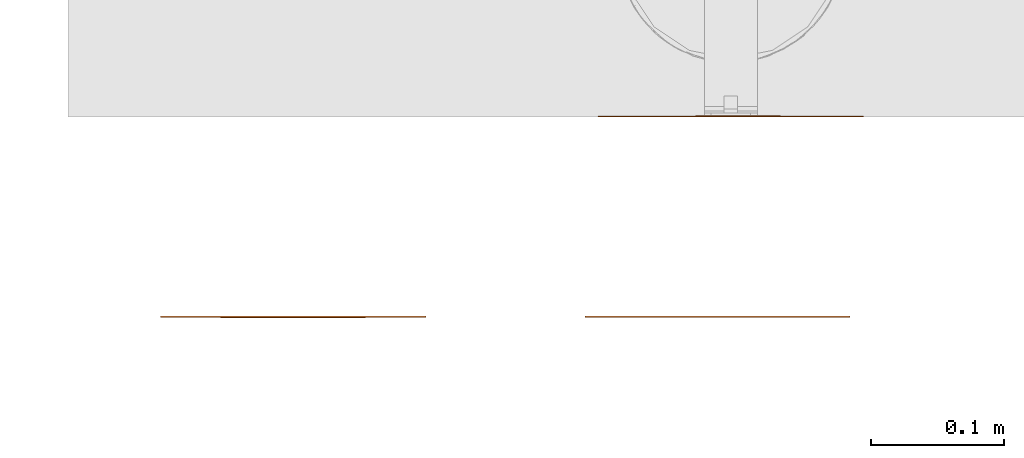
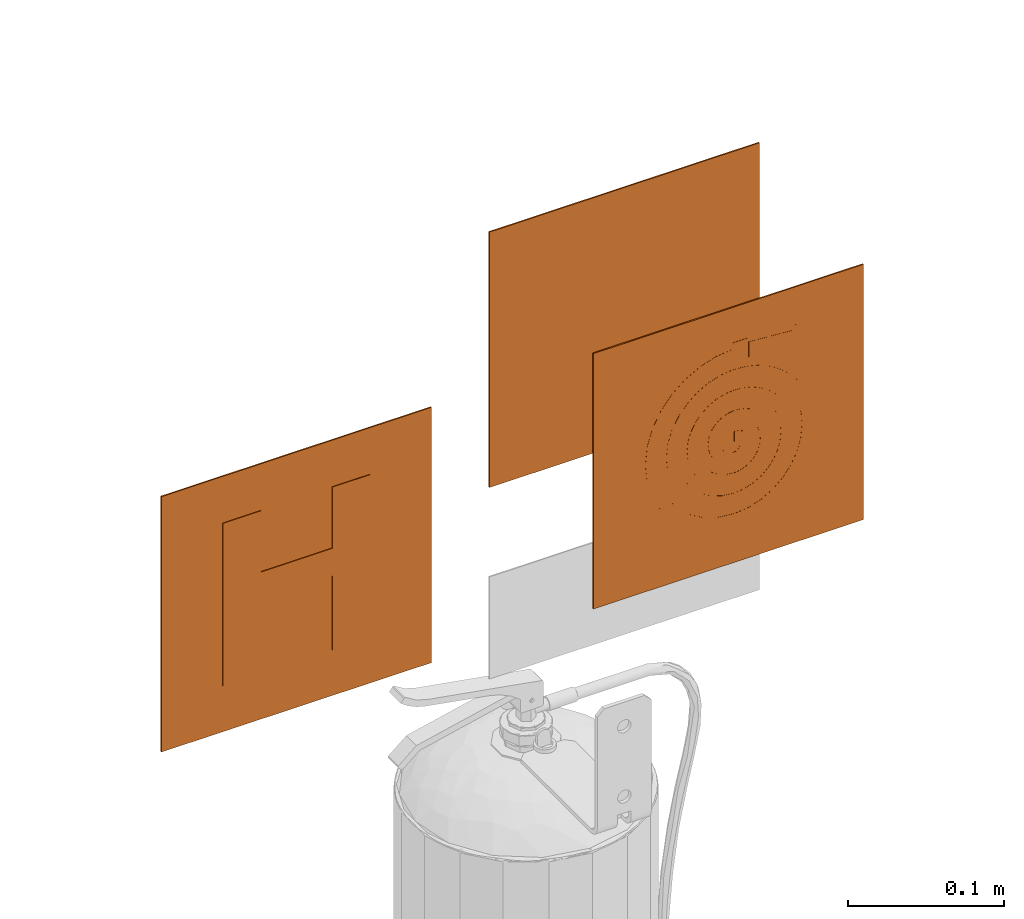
# One storey, part 41 of 119: 3 proxies.
"""IFC2X3 building model written with IfcOpenShell, lengths in metres."""

from ifc_helpers import new_model, entity, si_unit, converted_unit, derived_unit, direction, frame, frame_2d, origin, origin_2d_with_axis, place, context, subcontext, project, spatial, polyline, circle_curve, parameter, trimmed, segment, composite_curve, rectangle, outline, extrude, source, transform, mapped, material, material_list, type_object, type_shapes, element, save


model = new_model("IFC2X3")

# Units and contexts
model_context = context("Model", 3, precision=1e-05, world=origin(), true_north=direction((6.12303176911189e-17, 1.0)))
body_context = subcontext(model_context, "Body", "Model", "MODEL_VIEW")
ifc_project = project(units=[si_unit("LENGTHUNIT", "METRE"), si_unit("AREAUNIT", "SQUARE_METRE"), si_unit("VOLUMEUNIT", "CUBIC_METRE"), converted_unit("PLANEANGLEUNIT", "DEGREE", entity("IfcRatioMeasure", 0.0174532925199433), si_unit("PLANEANGLEUNIT", "RADIAN"), dimensions=[0, 0, 0, 0, 0, 0, 0]), si_unit("MASSUNIT", "GRAM", prefix="KILO"), derived_unit("MASSDENSITYUNIT", [(si_unit("MASSUNIT", "GRAM", prefix="KILO"), 1), (si_unit("LENGTHUNIT", "METRE"), -3)]), derived_unit("MOMENTOFINERTIAUNIT", [(si_unit("LENGTHUNIT", "METRE"), 4)]), si_unit("TIMEUNIT", "SECOND"), si_unit("FREQUENCYUNIT", "HERTZ"), si_unit("THERMODYNAMICTEMPERATUREUNIT", "DEGREE_CELSIUS"), derived_unit("THERMALTRANSMITTANCEUNIT", [(si_unit("MASSUNIT", "GRAM", prefix="KILO"), 1), (si_unit("THERMODYNAMICTEMPERATUREUNIT", "KELVIN"), -1), (si_unit("TIMEUNIT", "SECOND"), -3)]), derived_unit("VOLUMETRICFLOWRATEUNIT", [(si_unit("LENGTHUNIT", "METRE"), 3), (si_unit("TIMEUNIT", "SECOND"), -1)]), si_unit("ELECTRICCURRENTUNIT", "AMPERE"), si_unit("ELECTRICVOLTAGEUNIT", "VOLT"), si_unit("POWERUNIT", "WATT"), si_unit("FORCEUNIT", "NEWTON", prefix="KILO"), si_unit("ILLUMINANCEUNIT", "LUX"), si_unit("LUMINOUSFLUXUNIT", "LUMEN"), si_unit("LUMINOUSINTENSITYUNIT", "CANDELA"), derived_unit("USERDEFINED", [(si_unit("MASSUNIT", "GRAM", prefix="KILO"), -1), (si_unit("LENGTHUNIT", "METRE"), -2), (si_unit("TIMEUNIT", "SECOND"), 3), (si_unit("LUMINOUSFLUXUNIT", "LUMEN"), 1)]), derived_unit("LINEARVELOCITYUNIT", [(si_unit("LENGTHUNIT", "METRE"), 1), (si_unit("TIMEUNIT", "SECOND"), -1)]), si_unit("PRESSUREUNIT", "PASCAL"), derived_unit("USERDEFINED", [(si_unit("LENGTHUNIT", "METRE"), -2), (si_unit("MASSUNIT", "GRAM", prefix="KILO"), 1), (si_unit("TIMEUNIT", "SECOND"), -2)]), derived_unit("LINEARFORCEUNIT", [(si_unit("MASSUNIT", "GRAM", prefix="KILO"), 1), (si_unit("LENGTHUNIT", "METRE"), 1), (si_unit("TIMEUNIT", "SECOND"), -2), (si_unit("LENGTHUNIT", "METRE"), -1)]), derived_unit("PLANARFORCEUNIT", [(si_unit("MASSUNIT", "GRAM", prefix="KILO"), 1), (si_unit("LENGTHUNIT", "METRE"), 1), (si_unit("TIMEUNIT", "SECOND"), -2), (si_unit("LENGTHUNIT", "METRE"), -2)])], contexts=[model_context])

# Site, building, storey
site_placement = place(None, origin())
site = spatial("IfcSite", under=ifc_project, at=site_placement, Name="Default", CompositionType="ELEMENT")
building_placement = place(site_placement, origin())
building = spatial("IfcBuilding", under=site, at=building_placement, CompositionType="ELEMENT")
storey_placement = place(building_placement, origin())
storey = spatial("IfcBuildingStorey", under=building, at=storey_placement, Name="PAV. 01 - TÉRREO", CompositionType="ELEMENT", Elevation=0.0)

# Proxies
ifc_material_1 = material(Name="Plastico branco")
ifc_material_2 = material(Name="Plastico vermelho")
ifc_material_list_1 = material_list([ifc_material_1, ifc_material_2])
building_element_proxy_type_1 = type_object("IfcBuildingElementProxyType", Name="Sinalização de equipamentos - E05 - Extintor de incêndio:Distância 08m", PredefinedType="NOTDEFINED", material=ifc_material_1)
shared_shape_1 = source(origin(), body_context, "Body", "SweptSolid", [
    extrude(outline(composite_curve([segment(polyline([(-0.039533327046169, -0.0988107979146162), (0.0136590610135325, -0.0988107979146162)]), True, "CONTINUOUS"), segment(polyline([(0.0136590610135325, -0.0988107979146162), (0.0136590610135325, -0.0150548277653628)]), True, "CONTINUOUS"), segment(polyline([(0.0136590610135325, -0.0150548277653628), (0.0132403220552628, -0.0112272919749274)]), True, "CONTINUOUS"), segment(polyline([(0.0132403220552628, -0.0112272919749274), (0.0119841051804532, -0.00798860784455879)]), True, "CONTINUOUS"), segment(polyline([(0.0119841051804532, -0.00798860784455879), (0.00989041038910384, -0.00533877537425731)]), True, "CONTINUOUS"), segment(polyline([(0.00989041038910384, -0.00533877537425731), (0.00695923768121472, -0.00327779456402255)]), True, "CONTINUOUS"), segment(polyline([(0.00695923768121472, -0.00327779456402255), (0.00319058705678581, -0.00180566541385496)]), True, "CONTINUOUS"), segment(polyline([(0.00319058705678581, -0.00180566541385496), (-0.00141554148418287, -0.000922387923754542)]), True, "CONTINUOUS"), segment(polyline([(-0.00141554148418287, -0.000922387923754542), (-0.00685914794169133, -0.000627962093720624)]), True, "CONTINUOUS"), segment(polyline([(-0.00685914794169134, -0.000627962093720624), (-0.00685914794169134, 0.00837547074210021)]), True, "CONTINUOUS"), segment(polyline([(-0.00685914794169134, 0.00837547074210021), (0.000568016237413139, 0.00837547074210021)]), True, "CONTINUOUS"), segment(polyline([(0.000568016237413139, 0.00837547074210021), (0.021500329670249, -0.0075875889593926)]), True, "CONTINUOUS"), segment(polyline([(0.021500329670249, -0.0075875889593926), (0.021500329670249, -0.0104328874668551)]), True, "CONTINUOUS"), segment(polyline([(0.021500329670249, -0.0104328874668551), (0.0245059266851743, -0.0104328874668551)]), True, "CONTINUOUS"), segment(polyline([(0.0245059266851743, -0.0104328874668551), (0.0245059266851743, -0.00811335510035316)]), True, "CONTINUOUS"), segment(polyline([(0.0245059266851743, -0.00811335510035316), (0.0243642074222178, -0.00545038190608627)]), True, "CONTINUOUS"), segment(polyline([(0.0243642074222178, -0.00545038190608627), (0.0239570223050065, -0.0032112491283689)]), True, "CONTINUOUS"), segment(polyline([(0.0239570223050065, -0.0032112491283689), (0.0233113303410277, -0.00132119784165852)]), True, "CONTINUOUS"), segment(polyline([(0.0233113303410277, -0.00132119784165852), (0.0224540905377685, 0.00029453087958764)]), True, "CONTINUOUS"), segment(polyline([(0.0224540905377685, 0.00029453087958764), (0.0214122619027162, 0.00171069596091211)]), True, "CONTINUOUS"), segment(polyline([(0.0214122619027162, 0.00171069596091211), (0.0202128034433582, 0.00300205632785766)]), True, "CONTINUOUS"), segment(polyline([(0.0202128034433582, 0.00300205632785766), (0.0188826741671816, 0.00424337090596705)]), True, "CONTINUOUS"), segment(polyline([(0.0188826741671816, 0.00424337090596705), (0.0144021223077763, 0.00811180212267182)]), True, "CONTINUOUS"), segment(polyline([(0.0144021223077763, 0.00811180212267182), (0.0113518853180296, 0.0106145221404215)]), True, "CONTINUOUS"), segment(polyline([(0.0113518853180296, 0.0106145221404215), (0.0085825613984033, 0.0127576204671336)]), True, "CONTINUOUS"), segment(polyline([(0.0085825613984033, 0.0127576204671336), (0.00738733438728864, 0.0136170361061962)]), True, "CONTINUOUS"), segment(polyline([(0.00738733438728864, 0.0136170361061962), (0.00631521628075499, 0.0143235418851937)]), True, "CONTINUOUS"), segment(polyline([(0.00631521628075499, 0.0143235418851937), (0.00532850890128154, 0.0148903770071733)]), True, "CONTINUOUS"), segment(polyline([(0.00532850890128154, 0.0148903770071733), (0.00438926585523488, 0.0153309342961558)]), True, "CONTINUOUS"), segment(polyline([(0.00438926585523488, 0.0153309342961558), (0.00345954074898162, 0.0156586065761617)]), True, "CONTINUOUS"), segment(polyline([(0.00345954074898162, 0.0156586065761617), (0.00250138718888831, 0.0158867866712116)]), True, "CONTINUOUS"), segment(polyline([(0.00250138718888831, 0.0158867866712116), (0.00144087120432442, 0.0160289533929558)]), True, "CONTINUOUS"), segment(polyline([(0.00144087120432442, 0.0160289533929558), (-0.000108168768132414, 0.0160993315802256)]), True, "CONTINUOUS"), segment(polyline([(-0.000108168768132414, 0.0160993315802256), (-0.00685914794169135, 0.0160831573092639)]), True, "CONTINUOUS"), segment(polyline([(-0.00685914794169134, 0.0160831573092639), (-0.00685914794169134, 0.0213863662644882)]), True, "CONTINUOUS"), segment(polyline([(-0.00685914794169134, 0.0213863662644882), (-0.0177728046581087, 0.0213863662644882)]), True, "CONTINUOUS"), segment(polyline([(-0.0177728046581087, 0.0213863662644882), (-0.0177728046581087, 0.0160831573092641)]), True, "CONTINUOUS"), segment(polyline([(-0.0177728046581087, 0.0160831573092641), (-0.0288467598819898, 0.0160831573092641)]), True, "CONTINUOUS"), segment(trimmed(circle_curve(frame_2d((-0.0288467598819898, 0.0122293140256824), x_axis=(-1.0, 0.0)), 0.00385384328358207), [parameter(270.0)], [parameter(90.0000000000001)], True, "PARAMETER"), True, "CONTINUOUS"), segment(polyline([(-0.0288467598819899, 0.00837547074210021), (-0.0190151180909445, 0.00837547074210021)]), True, "CONTINUOUS"), segment(polyline([(-0.0190151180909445, 0.00837547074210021), (-0.0190151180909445, -0.000627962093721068)]), True, "CONTINUOUS"), segment(polyline([(-0.0190151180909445, -0.000627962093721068), (-0.024458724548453, -0.000922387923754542)]), True, "CONTINUOUS"), segment(polyline([(-0.024458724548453, -0.000922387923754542), (-0.0290648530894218, -0.00180566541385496)]), True, "CONTINUOUS"), segment(polyline([(-0.0290648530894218, -0.00180566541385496), (-0.0328335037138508, -0.00327779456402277)]), True, "CONTINUOUS"), segment(polyline([(-0.0328335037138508, -0.00327779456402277), (-0.03576467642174, -0.00533877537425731)]), True, "CONTINUOUS"), segment(polyline([(-0.03576467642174, -0.00533877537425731), (-0.0378583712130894, -0.00798860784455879)]), True, "CONTINUOUS"), segment(polyline([(-0.0378583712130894, -0.00798860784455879), (-0.0391145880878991, -0.0112272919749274)]), True, "CONTINUOUS"), segment(polyline([(-0.0391145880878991, -0.0112272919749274), (-0.039533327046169, -0.0150548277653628)]), True, "CONTINUOUS"), segment(polyline([(-0.039533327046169, -0.0150548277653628), (-0.039533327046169, -0.0988107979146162)]), True, "CONTINUOUS")], self_intersect=False)), frame((-0.0129371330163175, -0.0011, 1.94006139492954), z_axis=(0.0, 1.0, 0.0), x_axis=(-1.0, 0.0, 0.0)), (0.0, 0.0, 1.0), 0.0011),
    extrude(rectangle(XDim=0.001, YDim=0.179, at=origin_2d_with_axis()), frame((0.0, -0.0005, 1.8105), z_axis=(0.0, 0.0, 1.0), x_axis=(0.0, 1.0, 0.0)), (0.0, 0.0, 1.0), 0.179),
    extrude(outline(polyline([(-0.100000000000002, -0.1), (0.100000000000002, -0.1), (0.100000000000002, 0.1), (-0.100000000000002, 0.1), (-0.100000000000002, -0.1)]), holes=[polyline([(-0.0895000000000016, -0.0895000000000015), (-0.0895000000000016, 0.0894999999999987), (0.0894999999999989, 0.0894999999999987), (0.0894999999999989, -0.0895000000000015), (-0.0895000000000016, -0.0895000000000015)])]), frame((0.0, -0.001, 1.9), z_axis=(0.0, 1.0, 0.0), x_axis=(0.0, 0.0, -1.0)), (0.0, 0.0, 1.0), 0.001),
])
type_shapes(building_element_proxy_type_1, [shared_shape_1])
proxy_1_placement = place(storey_placement, frame((26.0441407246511, -5.41661806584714, 0.0), z_axis=(0.0, 0.0, 1.0), x_axis=(-1.0, 0.0, 0.0)))
element("IfcBuildingElementProxy", 1, at=proxy_1_placement, inside=storey, type_object=building_element_proxy_type_1, material=ifc_material_list_1, Name="Sinalização de equipamentos - E05 - Extintor de incêndio:Distância 08m", ObjectType="Sinalização de equipamentos - E05 - Extintor de incêndio:Distância 08m", context=body_context, shape_type="MappedRepresentation", body=[
    mapped(shared_shape_1, transform((0.0, 0.0, 0.0), scale=1.0)),
])
ifc_material_list_2 = material_list([ifc_material_1, ifc_material_2])
building_element_proxy_type_2 = type_object("IfcBuildingElementProxyType", Name="Sinalização de equipamentos - E08 - Hidrante de incêndio:Distância 08m", PredefinedType="NOTDEFINED", material=ifc_material_1)
shared_shape_2 = source(origin(), body_context, "Body", "SweptSolid", [
    extrude(outline(polyline([(-0.0621646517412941, -0.0264425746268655), (-0.0621646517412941, -0.0546283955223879), (0.0655131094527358, -0.0546283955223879), (0.0655131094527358, -0.0264425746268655), (0.00753848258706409, -0.0264425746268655), (0.00753848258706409, 0.0264425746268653), (0.0655131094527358, 0.0264425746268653), (0.0655131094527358, 0.0546283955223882), (-0.0621646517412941, 0.0546283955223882), (-0.0621646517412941, 0.0264425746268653), (-0.0142353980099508, 0.0264425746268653), (-0.0142353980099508, -0.0264425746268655), (-0.0621646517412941, -0.0264425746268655)])), frame((0.0, -0.0015, 1.90139370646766), z_axis=(0.0, -1.0, 0.0), x_axis=(0.0, 0.0, -1.0)), (0.0, 0.0, -1.0), 0.0015),
    extrude(rectangle(XDim=0.001, YDim=0.179, at=origin_2d_with_axis()), frame((0.0, -0.0005, 1.8105), z_axis=(0.0, 0.0, 1.0), x_axis=(0.0, 1.0, 0.0)), (0.0, 0.0, 1.0), 0.179),
    extrude(outline(polyline([(-0.100000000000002, -0.1), (0.100000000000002, -0.1), (0.100000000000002, 0.1), (-0.100000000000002, 0.1), (-0.100000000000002, -0.1)]), holes=[polyline([(-0.0895000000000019, -0.0895000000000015), (-0.0895000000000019, 0.0894999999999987), (0.0894999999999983, 0.0894999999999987), (0.0894999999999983, -0.0895000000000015), (-0.0895000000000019, -0.0895000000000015)])]), frame((0.0, -0.001, 1.9), z_axis=(0.0, 1.0, 0.0), x_axis=(0.0, 0.0, -1.0)), (0.0, 0.0, 1.0), 0.001),
])
type_shapes(building_element_proxy_type_2, [shared_shape_2])
proxy_2_placement = place(storey_placement, frame((25.7140605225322, -5.56661806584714, 0.0)))
element("IfcBuildingElementProxy", 2, at=proxy_2_placement, inside=storey, type_object=building_element_proxy_type_2, material=ifc_material_list_2, Name="Sinalização de equipamentos - E08 - Hidrante de incêndio:Distância 08m", ObjectType="Sinalização de equipamentos - E08 - Hidrante de incêndio:Distância 08m", context=body_context, shape_type="MappedRepresentation", body=[
    mapped(shared_shape_2, transform((0.0, 0.0, 0.0), scale=1.0)),
])
ifc_material_list_3 = material_list([ifc_material_1, ifc_material_2])
building_element_proxy_type_3 = type_object("IfcBuildingElementProxyType", Name="Sinalização de equipamentos - E07 - Abrigo de mangueira e hidrante:Distância 08m", PredefinedType="NOTDEFINED", material=ifc_material_1)
shared_shape_3 = source(origin(), body_context, "Body", "SweptSolid", [
    extrude(outline(polyline([(-0.00690786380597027, -0.0122995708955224), (0.00711825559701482, -0.0122995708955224), (0.00711825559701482, -0.00743718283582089), (0.00262989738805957, -0.00743718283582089), (0.00596944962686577, 0.0271739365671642), (-0.00581249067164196, 0.0271739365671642), (-0.00320763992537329, -0.00743718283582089), (-0.00690786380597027, -0.00743718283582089), (-0.00690786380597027, -0.0122995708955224)])), frame((0.0421885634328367, -0.0011, 1.96326280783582), z_axis=(0.0, 1.0, 0.0), x_axis=(0.0, 0.0, -1.0)), (0.0, 0.0, 1.0), 0.0011),
    extrude(outline(polyline([(-0.0100749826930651, 0.0564373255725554), (0.000130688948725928, 0.0564373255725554), (0.000130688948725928, 0.0615935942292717), (0.0111390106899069, 0.0603672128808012), (0.0215236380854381, 0.0569157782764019), (0.0310659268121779, 0.0514698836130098), (0.039547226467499, 0.044260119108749), (0.0467232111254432, 0.0355044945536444), (0.0522652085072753, 0.0253796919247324), (0.0558272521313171, 0.0140539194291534), (0.0570633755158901, 0.00169538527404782), (0.0559544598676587, -0.0103529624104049), (0.0527167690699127, -0.021677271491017), (0.0475402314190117, -0.0320063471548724), (0.0406147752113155, -0.0410689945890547), (0.0321303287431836, -0.0485940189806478), (0.0222768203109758, -0.054310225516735), (0.0112441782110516, -0.0579464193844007), (-0.000777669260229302, -0.0592314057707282), (-0.0112144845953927, -0.0581339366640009), (-0.0207847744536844, -0.0549992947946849), (-0.0293267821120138, -0.0500696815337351), (-0.0366787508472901, -0.0435872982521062), (-0.0426789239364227, -0.0357943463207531), (-0.0471655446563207, -0.0269330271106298), (-0.0499768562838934, -0.0172455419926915), (-0.0509511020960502, -0.00697409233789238), (-0.0503267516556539, 0.00214397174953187), (-0.0485509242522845, 0.0101046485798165), (-0.0457766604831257, 0.0170464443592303), (-0.042157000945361, 0.0231078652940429), (-0.0378449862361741, 0.0284274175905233), (-0.0329915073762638, 0.0331411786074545), (-0.0276526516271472, 0.0372781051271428), (-0.0217544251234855, 0.0407201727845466), (-0.0152134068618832, 0.0433387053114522), (-0.00794617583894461, 0.0450050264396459), (0.000130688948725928, 0.0455904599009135), (0.0081536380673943, 0.04465447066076), (0.0157133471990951, 0.0420982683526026), (0.0226512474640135, 0.0380908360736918), (0.0288087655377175, 0.0328011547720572), (0.034008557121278, 0.0263891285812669), (0.0380116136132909, 0.0189848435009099), (0.0405662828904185, 0.0107122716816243), (0.041420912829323, 0.00169538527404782), (0.0406481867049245, -0.00714065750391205), (0.0383124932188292, -0.015453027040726), (0.0345521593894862, -0.0230422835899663), (0.0295055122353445, -0.0297089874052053), (0.023310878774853, -0.0352536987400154), (0.0161065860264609, -0.0394769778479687), (0.0080309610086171, -0.0421793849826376), (-0.000777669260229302, -0.043161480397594), (-0.00799025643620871, -0.0423890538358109), (-0.014601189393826, -0.0402096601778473), (-0.0204989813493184, -0.0367909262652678), (-0.0255721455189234, -0.0323004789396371), (-0.0297091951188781, -0.0269059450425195), (-0.03279864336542, -0.0207749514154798), (-0.0347290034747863, -0.0140751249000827), (-0.0353887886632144, -0.00697409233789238), (-0.0349404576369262, -0.000650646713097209), (-0.0336953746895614, 0.00486808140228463), (-0.0317594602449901, 0.00967841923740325), (-0.0292386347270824, 0.0138766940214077), (-0.0262388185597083, 0.0175592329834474), (-0.0228644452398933, 0.0208206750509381), (-0.0191543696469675, 0.02368119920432), (-0.015057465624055, 0.0260588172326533), (-0.0105160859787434, 0.02786413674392), (-0.00547258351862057, 0.0290077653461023), (0.000130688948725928, 0.0294003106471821), (0.00520279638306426, 0.0288165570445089), (0.00998368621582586, 0.027208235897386), (0.0143729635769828, 0.0246820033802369), (0.018270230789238, 0.0213445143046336), (0.0215632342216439, 0.0172966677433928), (0.0241007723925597, 0.012620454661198), (0.02572365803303, 0.00739398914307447), (0.0262727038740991, 0.00169538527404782), (0.0257957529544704, -0.0039920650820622), (0.0243118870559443, -0.00934613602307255), (0.0219096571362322, -0.0142381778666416), (0.0186776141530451, -0.0185395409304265), (0.0147043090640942, -0.0221215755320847), (0.0100782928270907, -0.0248556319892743), (0.00488811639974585, -0.0266130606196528), (-0.000777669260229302, -0.0272652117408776), (-0.00480591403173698, -0.0268185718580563), (-0.00849506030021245, -0.0255870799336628), (-0.011783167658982, -0.0236646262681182), (-0.014608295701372, -0.0211451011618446), (-0.0169085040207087, -0.0181223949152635), (-0.0186218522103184, -0.0146903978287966), (-0.0196863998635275, -0.0109430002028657), (-0.0200402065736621, -0.00697409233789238), (-0.0197070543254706, -0.00307612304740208), (-0.0188559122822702, 0.000297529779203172), (-0.0175578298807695, 0.00320533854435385), (-0.0158838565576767, 0.00570577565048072), (-0.0139050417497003, 0.00785731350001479), (-0.0116800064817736, 0.00970541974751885), (-0.00919827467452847, 0.0112232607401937), (-0.00642549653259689, 0.0123590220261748), (-0.00332729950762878, 0.013060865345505), (0.000130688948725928, 0.013276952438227), (0.00313917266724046, 0.0124353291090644), (0.00564156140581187, 0.0111582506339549), (0.00763785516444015, 0.00944571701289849), (0.0091280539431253, 0.00729772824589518), (0.0101121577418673, 0.00471428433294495), (0.0105901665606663, 0.00169538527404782), (0.0104396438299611, -0.00075805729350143), (0.00985235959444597, -0.00307766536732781), (0.0088652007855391, -0.00520719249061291), (0.00751505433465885, -0.00709039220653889), (0.00583880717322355, -0.00867101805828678), (0.00387334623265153, -0.00989282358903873), (0.00165555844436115, -0.0106995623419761), (-0.000777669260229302, -0.0110349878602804), (-0.00167408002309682, -0.0108859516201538), (-0.00245613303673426, -0.0105863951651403), (-0.00312066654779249, -0.0101578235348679), (-0.00366451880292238, -0.00962174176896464), (-0.00408452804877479, -0.00899965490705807), (-0.00437753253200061, -0.00831306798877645), (-0.00454037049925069, -0.00758348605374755), (-0.00456988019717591, -0.00683241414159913), (-0.00446289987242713, -0.00608135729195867), (-0.00421626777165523, -0.00535182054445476), (-0.00382682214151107, -0.00466530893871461), (-0.00329140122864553, -0.00404332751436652), (-0.00260684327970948, -0.00350738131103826), (-0.00176998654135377, -0.00307897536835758), (-0.000777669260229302, -0.00277961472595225), (-0.000777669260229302, 0.00518187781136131), (-0.00423070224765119, 0.0045419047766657), (-0.00707907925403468, 0.00334752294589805), (-0.00932280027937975, 0.00159873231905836), (-0.0109618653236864, -0.00070446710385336), (-0.0119962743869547, -0.00356207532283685), (-0.0124260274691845, -0.00697409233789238), (-0.012188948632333, -0.00934499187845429), (-0.0115283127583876, -0.0115788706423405), (-0.0104817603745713, -0.0136199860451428), (-0.00908693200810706, -0.0154125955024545), (-0.00738146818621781, -0.0169009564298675), (-0.00540300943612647, -0.018029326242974), (-0.003189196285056, -0.018741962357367), (-0.000777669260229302, -0.0189831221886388), (0.00328262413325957, -0.0185300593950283), (0.00700496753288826, -0.0172840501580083), (0.0103256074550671, -0.0153370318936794), (0.0131807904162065, -0.0127809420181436), (0.0155067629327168, -0.00970771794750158), (0.0172397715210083, -0.00620929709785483), (0.0183160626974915, -0.00237761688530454), (0.0186718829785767, 0.00169538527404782), (0.0182922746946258, 0.00574957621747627), (0.0171479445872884, 0.00946273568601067), (0.0153522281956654, 0.0127723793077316), (0.0130184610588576, 0.0156160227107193), (0.0102540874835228, 0.0179361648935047), (0.00713791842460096, 0.0196995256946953), (0.0037400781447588, 0.0208801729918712), (0.000130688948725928, 0.021452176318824), (-0.004291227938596, 0.0211836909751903), (-0.00827718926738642, 0.0203187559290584), (-0.0118720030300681, 0.0189282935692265), (-0.0151204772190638, 0.0170832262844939), (-0.0180674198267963, 0.014854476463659), (-0.0207525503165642, 0.012307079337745), (-0.0231453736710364, 0.00942483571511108), (-0.0251642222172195, 0.00613234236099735), (-0.0267262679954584, 0.00235285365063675), (-0.027748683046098, -0.00199037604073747), (-0.028148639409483, -0.00697409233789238), (-0.0275827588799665, -0.0125340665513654), (-0.0260239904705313, -0.0177709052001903), (-0.0235608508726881, -0.0225540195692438), (-0.0202818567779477, -0.026752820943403), (-0.0162755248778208, -0.0302367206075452), (-0.0116303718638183, -0.0328751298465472), (-0.00643491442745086, -0.0345374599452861), (-0.000777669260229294, -0.0350931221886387), (0.00649225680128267, -0.0343265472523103), (0.0131661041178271, -0.0321374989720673), (0.0191288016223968, -0.028689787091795), (0.0242652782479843, -0.0241472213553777), (0.0284604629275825, -0.0186736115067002), (0.031599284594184, -0.0124327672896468), (0.0335666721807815, -0.00558849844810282), (0.0342475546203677, 0.00169538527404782), (0.0334944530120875, 0.00908531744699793), (0.0313514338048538, 0.0158549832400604), (0.0280255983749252, 0.0219041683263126), (0.0237240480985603, 0.0271326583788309), (0.0186435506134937, 0.0314351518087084), (0.0129304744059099, 0.0346815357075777), (0.00671584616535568, 0.0367341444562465), (0.00013068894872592, 0.0374553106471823), (-0.00671911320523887, 0.0369809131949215), (-0.012885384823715, 0.0355878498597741), (-0.0184385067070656, 0.0333854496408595), (-0.0234488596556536, 0.030483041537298), (-0.0279868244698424, 0.0269899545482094), (-0.0321148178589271, 0.0230064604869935), (-0.0357853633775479, 0.0185078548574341), (-0.038870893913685, 0.0133783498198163), (-0.0412420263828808, 0.00750009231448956), (-0.0427693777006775, 0.000755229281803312), (-0.0433235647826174, -0.00697409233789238), (-0.0424899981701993, -0.0156746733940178), (-0.0401006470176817, -0.0238790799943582), (-0.0362927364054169, -0.0313822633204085), (-0.0312034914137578, -0.0379791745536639), (-0.0249701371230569, -0.0434647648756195), (-0.0177298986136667, -0.0476339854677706), (-0.00962000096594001, -0.0502817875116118), (-0.000777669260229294, -0.0512031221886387), (0.00967260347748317, -0.0500981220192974), (0.0192654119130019, -0.046948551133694), (0.0278354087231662, -0.0419899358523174), (0.0352172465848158, -0.0354578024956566), (0.0412455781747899, -0.0275876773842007), (0.045755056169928, -0.0186150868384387), (0.0485803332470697, -0.0087755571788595), (0.0495560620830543, 0.00169538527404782), (0.0484795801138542, 0.0124199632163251), (0.0453849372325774, 0.0222475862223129), (0.0405724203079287, 0.0310323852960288), (0.0343423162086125, 0.0386284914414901), (0.0269799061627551, 0.0448826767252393), (0.0186972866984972, 0.0496058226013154), (0.00968427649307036, 0.052597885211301), (0.000130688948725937, 0.0536588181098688), (-0.00918927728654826, 0.0529865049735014), (-0.0175754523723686, 0.0510666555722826), (-0.0251240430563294, 0.0480477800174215), (-0.0319312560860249, 0.0440783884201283), (-0.0380932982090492, 0.0393069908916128), (-0.0436955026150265, 0.0338698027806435), (-0.048673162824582, 0.0277333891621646), (-0.0528522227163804, 0.0207406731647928), (-0.0560561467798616, 0.012731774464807), (-0.0581083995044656, 0.00354681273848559), (-0.0588324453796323, -0.00697409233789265), (-0.0577069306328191, -0.018861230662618), (-0.0544553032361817, -0.0300729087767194), (-0.0492647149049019, -0.0403288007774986), (-0.0423223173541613, -0.0493485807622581), (-0.033815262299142, -0.0568519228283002), (-0.0239307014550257, -0.0625585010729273), (-0.0128557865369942, -0.0661879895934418), (-0.000777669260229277, -0.0674600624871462), (0.0128900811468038, -0.0660204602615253), (0.0254375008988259, -0.0619064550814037), (0.0366482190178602, -0.0554259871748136), (0.0463058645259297, -0.0468869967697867), (0.0541940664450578, -0.0365974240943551), (0.0600964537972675, -0.0248652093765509), (0.063796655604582, -0.0119982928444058), (0.0650783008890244, 0.00169538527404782), (0.0636910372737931, 0.015779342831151), (0.0597178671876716, 0.0287040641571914), (0.0534946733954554, 0.040257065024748), (0.0453573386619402, 0.0502258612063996), (0.0356383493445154, 0.0583943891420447), (0.0246536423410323, 0.0645291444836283), (0.0127141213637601, 0.0683913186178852), (0.000130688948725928, 0.0697421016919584), (0.000130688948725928, 0.074791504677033), (-0.0100749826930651, 0.074791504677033), (-0.0100749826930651, 0.0564373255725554)])), frame((0.00353703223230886, -0.00109999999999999, 1.89754319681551), z_axis=(0.0, 1.0, 0.0), x_axis=(-1.0, 0.0, 0.0)), (0.0, 0.0, 1.0), 0.0011),
    extrude(rectangle(XDim=0.001, YDim=0.179, at=origin_2d_with_axis()), frame((0.0, -0.0005, 1.8105), z_axis=(0.0, 0.0, 1.0), x_axis=(0.0, 1.0, 0.0)), (0.0, 0.0, 1.0), 0.179000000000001),
    extrude(outline(polyline([(-0.100000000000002, -0.1), (0.100000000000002, -0.1), (0.100000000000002, 0.1), (-0.100000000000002, 0.1), (-0.100000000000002, -0.1)]), holes=[polyline([(-0.0895000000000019, -0.0895000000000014), (-0.0895000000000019, 0.0894999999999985), (0.0894999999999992, 0.0894999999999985), (0.0894999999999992, -0.0895000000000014), (-0.0895000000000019, -0.0895000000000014)])]), frame((0.0, -0.001, 1.9), z_axis=(0.0, 1.0, 0.0), x_axis=(0.0, 0.0, -1.0)), (0.0, 0.0, 1.0), 0.001),
])
type_shapes(building_element_proxy_type_3, [shared_shape_3])
proxy_3_placement = place(storey_placement, frame((26.0340605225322, -5.56661806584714, 0.0)))
element("IfcBuildingElementProxy", 3, at=proxy_3_placement, inside=storey, type_object=building_element_proxy_type_3, material=ifc_material_list_3, Name="Sinalização de equipamentos - E07 - Abrigo de mangueira e hidrante:Distância 08m", ObjectType="Sinalização de equipamentos - E07 - Abrigo de mangueira e hidrante:Distância 08m", context=body_context, shape_type="MappedRepresentation", body=[
    mapped(shared_shape_3, transform((0.0, 0.0, 0.0), scale=1.0)),
])

save(model, "model.ifc")
